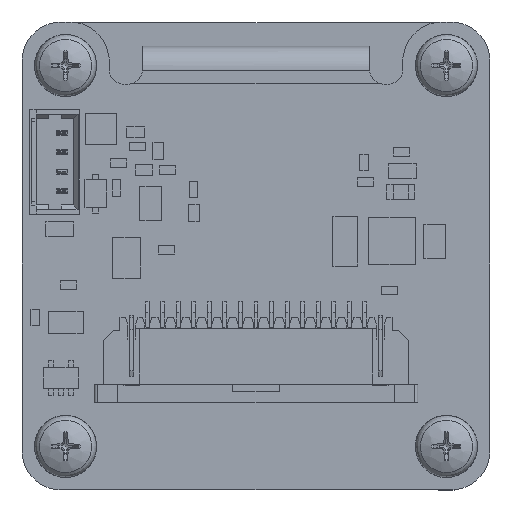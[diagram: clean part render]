
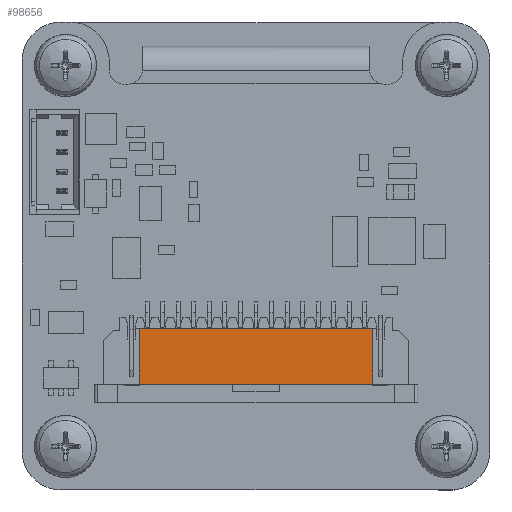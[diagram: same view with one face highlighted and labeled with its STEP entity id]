
A CAD part, top view. The second image highlights one B-rep face of the part: STEP entity #98656.
In plain terms, the highlighted planar face has unit normal (0, 0, 1).
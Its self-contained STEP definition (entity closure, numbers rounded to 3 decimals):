
#9566=PLANE('',#105612);
#15202=FACE_OUTER_BOUND('',#20607,.T.);
#20607=EDGE_LOOP('',(#89410,#89411,#89412,#89413));
#30327=LINE('',#159702,#41624);
#30328=LINE('',#159704,#41625);
#30329=LINE('',#159706,#41626);
#30330=LINE('',#159707,#41627);
#41624=VECTOR('',#126499,1.);
#41625=VECTOR('',#126500,1.);
#41626=VECTOR('',#126501,1.);
#41627=VECTOR('',#126502,1.);
#52553=VERTEX_POINT('',#159700);
#52554=VERTEX_POINT('',#159701);
#52555=VERTEX_POINT('',#159703);
#52556=VERTEX_POINT('',#159705);
#65066=EDGE_CURVE('',#52553,#52554,#30327,.T.);
#65067=EDGE_CURVE('',#52553,#52555,#30328,.T.);
#65068=EDGE_CURVE('',#52556,#52555,#30329,.T.);
#65069=EDGE_CURVE('',#52554,#52556,#30330,.T.);
#89410=ORIENTED_EDGE('',*,*,#65066,.F.);
#89411=ORIENTED_EDGE('',*,*,#65067,.T.);
#89412=ORIENTED_EDGE('',*,*,#65068,.F.);
#89413=ORIENTED_EDGE('',*,*,#65069,.F.);
#98656=ADVANCED_FACE('',(#15202),#9566,.F.);
#105612=AXIS2_PLACEMENT_3D('',#159699,#126497,#126498);
#126497=DIRECTION('center_axis',(0.,0.,-1.));
#126498=DIRECTION('ref_axis',(-1.,0.,0.));
#126499=DIRECTION('',(1.,0.,0.));
#126500=DIRECTION('',(0.,-1.,0.));
#126501=DIRECTION('',(-1.,0.,0.));
#126502=DIRECTION('',(0.,-1.,0.));
#159699=CARTESIAN_POINT('Origin',(24.8,5.55,2.713));
#159700=CARTESIAN_POINT('',(7.5,10.35,2.713));
#159701=CARTESIAN_POINT('',(22.5,10.35,2.713));
#159702=CARTESIAN_POINT('',(7.5,10.35,2.713));
#159703=CARTESIAN_POINT('',(7.5,6.75,2.713));
#159704=CARTESIAN_POINT('',(7.5,10.35,2.713));
#159705=CARTESIAN_POINT('',(22.5,6.75,2.713));
#159706=CARTESIAN_POINT('',(22.5,6.75,2.713));
#159707=CARTESIAN_POINT('',(22.5,10.35,2.713));
